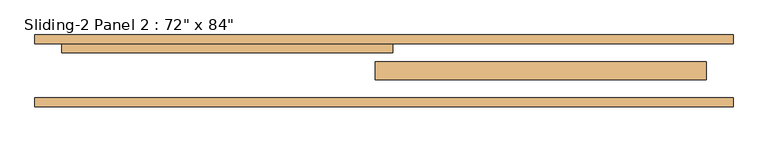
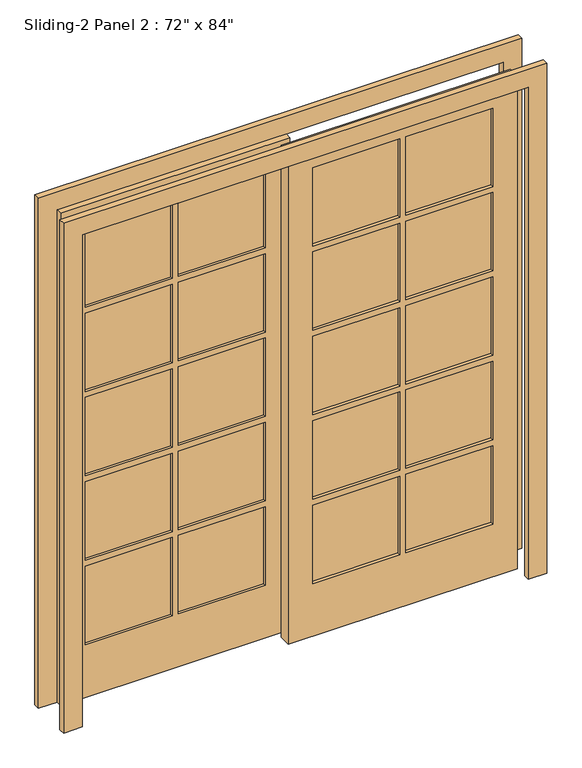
"""IFC4 building model written with IfcOpenShell, lengths in millimetres: door geometry."""

from ifc_helpers import new_model, si_unit, frame, origin, place, context, project, spatial, polyline, outline, extrude, source, transform, mapped, element, save


def door_789d9d7f(model_context):
    return source(origin(), model_context, "Body", "SweptSolid", [
        extrude(outline(polyline([(457.2, 139.4293121), (812.8, 139.4293121), (812.8, 114.8534681), (457.2, 114.8534681), (457.2, 139.4293121)])), frame((0.0, 0.0, 1691.64), z_axis=(0.0, 0.0, 1.0), x_axis=(1.0, 0.0, 0.0)), (0.0, 0.0, 1.0), 340.36),
        extrude(outline(polyline([(76.2, 139.4293121), (431.8, 139.4293121), (431.8, 114.8534681), (76.2, 114.8534681), (76.2, 139.4293121)])), frame((0.0, 0.0, 1691.64), z_axis=(0.0, 0.0, 1.0), x_axis=(1.0, 0.0, 0.0)), (0.0, 0.0, 1.0), 340.36),
        extrude(outline(polyline([(457.2, 139.4293121), (812.8, 139.4293121), (812.8, 114.8534681), (457.2, 114.8534681), (457.2, 139.4293121)])), frame((0.0, 0.0, 1325.88), z_axis=(0.0, 0.0, 1.0), x_axis=(1.0, 0.0, 0.0)), (0.0, 0.0, 1.0), 340.36),
        extrude(outline(polyline([(76.2, 139.4293121), (431.8, 139.4293121), (431.8, 114.8534681), (76.2, 114.8534681), (76.2, 139.4293121)])), frame((0.0, 0.0, 1325.88), z_axis=(0.0, 0.0, 1.0), x_axis=(1.0, 0.0, 0.0)), (0.0, 0.0, 1.0), 340.36),
        extrude(outline(polyline([(457.2, 139.4293121), (812.8, 139.4293121), (812.8, 114.8534681), (457.2, 114.8534681), (457.2, 139.4293121)])), frame((0.0, 0.0, 960.12), z_axis=(0.0, 0.0, 1.0), x_axis=(1.0, 0.0, 0.0)), (0.0, 0.0, 1.0), 340.36),
        extrude(outline(polyline([(76.2, 139.4293121), (431.8, 139.4293121), (431.8, 114.8534681), (76.2, 114.8534681), (76.2, 139.4293121)])), frame((0.0, 0.0, 960.12), z_axis=(0.0, 0.0, 1.0), x_axis=(1.0, 0.0, 0.0)), (0.0, 0.0, 1.0), 340.36),
        extrude(outline(polyline([(457.2, 139.4293121), (812.8, 139.4293121), (812.8, 114.8534681), (457.2, 114.8534681), (457.2, 139.4293121)])), frame((0.0, 0.0, 594.36), z_axis=(0.0, 0.0, 1.0), x_axis=(1.0, 0.0, 0.0)), (0.0, 0.0, 1.0), 340.36),
        extrude(outline(polyline([(76.2, 139.4293121), (431.8, 139.4293121), (431.8, 114.8534681), (76.2, 114.8534681), (76.2, 139.4293121)])), frame((0.0, 0.0, 594.36), z_axis=(0.0, 0.0, 1.0), x_axis=(1.0, 0.0, 0.0)), (0.0, 0.0, 1.0), 340.36),
        extrude(outline(polyline([(457.2, 139.4293121), (812.8, 139.4293121), (812.8, 114.8534681), (457.2, 114.8534681), (457.2, 139.4293121)])), frame((0.0, 0.0, 228.6), z_axis=(0.0, 0.0, 1.0), x_axis=(1.0, 0.0, 0.0)), (0.0, 0.0, 1.0), 340.36),
        extrude(outline(polyline([(76.2, 139.4293121), (431.8, 139.4293121), (431.8, 114.8534681), (76.2, 114.8534681), (76.2, 139.4293121)])), frame((0.0, 0.0, 228.6), z_axis=(0.0, 0.0, 1.0), x_axis=(1.0, 0.0, 0.0)), (0.0, 0.0, 1.0), 340.36),
        extrude(outline(polyline([(-457.2, 188.2711448), (-812.8, 188.2711448), (-812.8, 190.5), (-457.2, 190.5), (-457.2, 188.2711448)])), frame((0.0, 0.0, 1691.64), z_axis=(0.0, 0.0, 1.0), x_axis=(1.0, 0.0, 0.0)), (0.0, 0.0, 1.0), 340.36),
        extrude(outline(polyline([(-76.2, 188.2711448), (-431.8, 188.2711448), (-431.8, 190.5), (-76.2, 190.5), (-76.2, 188.2711448)])), frame((0.0, 0.0, 1691.64), z_axis=(0.0, 0.0, 1.0), x_axis=(1.0, 0.0, 0.0)), (0.0, 0.0, 1.0), 340.36),
        extrude(outline(polyline([(-76.2, 188.2711448), (-431.8, 188.2711448), (-431.8, 190.5), (-76.2, 190.5), (-76.2, 188.2711448)])), frame((0.0, 0.0, 1325.88), z_axis=(0.0, 0.0, 1.0), x_axis=(1.0, 0.0, 0.0)), (0.0, 0.0, 1.0), 340.36),
        extrude(outline(polyline([(-457.2, 188.2711448), (-812.8, 188.2711448), (-812.8, 190.5), (-457.2, 190.5), (-457.2, 188.2711448)])), frame((0.0, 0.0, 1325.88), z_axis=(0.0, 0.0, 1.0), x_axis=(1.0, 0.0, 0.0)), (0.0, 0.0, 1.0), 340.36),
        extrude(outline(polyline([(-76.2, 188.2711448), (-431.8, 188.2711448), (-431.8, 190.5), (-76.2, 190.5), (-76.2, 188.2711448)])), frame((0.0, 0.0, 960.12), z_axis=(0.0, 0.0, 1.0), x_axis=(1.0, 0.0, 0.0)), (0.0, 0.0, 1.0), 340.36),
        extrude(outline(polyline([(-457.2, 188.2711448), (-812.8, 188.2711448), (-812.8, 190.5), (-457.2, 190.5), (-457.2, 188.2711448)])), frame((0.0, 0.0, 960.12), z_axis=(0.0, 0.0, 1.0), x_axis=(1.0, 0.0, 0.0)), (0.0, 0.0, 1.0), 340.36),
        extrude(outline(polyline([(-76.2, 188.2711448), (-431.8, 188.2711448), (-431.8, 190.5), (-76.2, 190.5), (-76.2, 188.2711448)])), frame((0.0, 0.0, 594.36), z_axis=(0.0, 0.0, 1.0), x_axis=(1.0, 0.0, 0.0)), (0.0, 0.0, 1.0), 340.36),
        extrude(outline(polyline([(-457.2, 188.2711448), (-812.8, 188.2711448), (-812.8, 190.5), (-457.2, 190.5), (-457.2, 188.2711448)])), frame((0.0, 0.0, 594.36), z_axis=(0.0, 0.0, 1.0), x_axis=(1.0, 0.0, 0.0)), (0.0, 0.0, 1.0), 340.36),
        extrude(outline(polyline([(-457.2, 188.2711448), (-812.8, 188.2711448), (-812.8, 190.5), (-457.2, 190.5), (-457.2, 188.2711448)])), frame((0.0, 0.0, 228.6), z_axis=(0.0, 0.0, 1.0), x_axis=(1.0, 0.0, 0.0)), (0.0, 0.0, 1.0), 340.36),
        extrude(outline(polyline([(-76.2, 188.2711448), (-431.8, 188.2711448), (-431.8, 190.5), (-76.2, 190.5), (-76.2, 188.2711448)])), frame((0.0, 0.0, 228.6), z_axis=(0.0, 0.0, 1.0), x_axis=(1.0, 0.0, 0.0)), (0.0, 0.0, 1.0), 340.36),
        extrude(outline(polyline([(2133.6, -914.4), (0.0, -914.4), (0.0, 25.4), (2133.6, 25.4), (2133.6, -914.4)]), holes=[polyline([(228.6, -457.2), (228.6, -812.8), (568.96, -812.8), (568.96, -457.2), (228.6, -457.2)]), polyline([(1691.64, -812.8), (2032.0, -812.8), (2032.0, -457.2), (1691.64, -457.2), (1691.64, -812.8)]), polyline([(2032.0, -431.8), (2032.0, -76.2), (1691.64, -76.2), (1691.64, -431.8), (2032.0, -431.8)]), polyline([(568.96, -76.2), (228.6, -76.2), (228.6, -431.8), (568.96, -431.8), (568.96, -76.2)]), polyline([(1666.24, -457.2), (1325.88, -457.2), (1325.88, -812.8), (1666.24, -812.8), (1666.24, -457.2)]), polyline([(1300.48, -457.2), (960.12, -457.2), (960.12, -812.8), (1300.48, -812.8), (1300.48, -457.2)]), polyline([(934.72, -457.2), (594.36, -457.2), (594.36, -812.8), (934.72, -812.8), (934.72, -457.2)]), polyline([(1666.24, -76.2), (1325.88, -76.2), (1325.88, -431.8), (1666.24, -431.8), (1666.24, -76.2)]), polyline([(960.12, -431.8), (1300.48, -431.8), (1300.48, -76.2), (960.12, -76.2), (960.12, -431.8)]), polyline([(594.36, -431.8), (934.72, -431.8), (934.72, -76.2), (594.36, -76.2), (594.36, -431.8)])]), frame((0.0, 177.8, 0.0), z_axis=(0.0, 1.0, 0.0), x_axis=(0.0, 0.0, 1.0)), (0.0, 0.0, 1.0), 25.4),
        extrude(outline(polyline([(2133.6, -25.4), (0.0, -25.4), (0.0, 914.4), (2133.6, 914.4), (2133.6, -25.4)]), holes=[polyline([(2032.0, 457.2), (2032.0, 812.8), (1691.64, 812.8), (1691.64, 457.2), (2032.0, 457.2)]), polyline([(568.96, 812.8), (228.6, 812.8), (228.6, 457.2), (568.96, 457.2), (568.96, 812.8)]), polyline([(228.6, 431.8), (228.6, 76.2), (568.96, 76.2), (568.96, 431.8), (228.6, 431.8)]), polyline([(1691.64, 76.2), (2032.0, 76.2), (2032.0, 431.8), (1691.64, 431.8), (1691.64, 76.2)]), polyline([(1666.24, 457.2), (1666.24, 812.8), (1325.88, 812.8), (1325.88, 457.2), (1666.24, 457.2)]), polyline([(1300.48, 457.2), (1300.48, 812.8), (960.12, 812.8), (960.12, 457.2), (1300.48, 457.2)]), polyline([(960.12, 431.8), (960.12, 76.2), (1300.48, 76.2), (1300.48, 431.8), (960.12, 431.8)]), polyline([(934.72, 431.8), (594.36, 431.8), (594.36, 76.2), (934.72, 76.2), (934.72, 431.8)]), polyline([(594.36, 457.2), (934.72, 457.2), (934.72, 812.8), (594.36, 812.8), (594.36, 457.2)]), polyline([(1325.88, 76.2), (1666.24, 76.2), (1666.24, 431.8), (1325.88, 431.8), (1325.88, 76.2)])]), frame((0.0, 101.6, 0.0), z_axis=(0.0, 1.0, 0.0), x_axis=(0.0, 0.0, 1.0)), (0.0, 0.0, 1.0), 50.8),
        extrude(outline(polyline([(0.0, -990.6), (0.0, -914.4), (2133.6, -914.4), (2133.6, 914.4), (0.0, 914.4), (0.0, 990.6), (2209.8, 990.6), (2209.8, -990.6), (0.0, -990.6)])), frame((0.0, 25.4, 0.0), z_axis=(0.0, 1.0, 0.0), x_axis=(0.0, 0.0, 1.0)), (0.0, 0.0, 1.0), 25.4),
        extrude(outline(polyline([(0.0, 990.6), (2209.8, 990.6), (2209.8, -990.6), (0.0, -990.6), (0.0, -914.4), (2133.6, -914.4), (2133.6, 914.4), (0.0, 914.4), (0.0, 990.6)])), frame((0.0, 203.2, 0.0), z_axis=(0.0, 1.0, 0.0), x_axis=(0.0, 0.0, 1.0)), (0.0, 0.0, 1.0), 25.4),
    ])


if __name__ == "__main__":
    model = new_model("IFC4")
    model_context = context("Model", 3, world=origin())
    ifc_project = project(units=[si_unit("LENGTHUNIT", "METRE", prefix="MILLI")], contexts=[model_context])
    site = spatial("IfcSite", under=ifc_project)
    building = spatial("IfcBuilding", under=site)
    placement = place(None, origin())
    door_shape = door_789d9d7f(model_context)
    element("IfcDoor", 1, ObjectType="Sliding-2 Panel 2 : 72\" x 84\"", at=placement, inside=building, context=model_context, shape_type="MappedRepresentation", body=[
        mapped(door_shape, transform((0.0, 0.0, 0.0), x_axis=(1.0, 0.0, 0.0), y_axis=(0.0, 1.0, 0.0), z_axis=(0.0, 0.0, 1.0))),
    ])
    save(model, "model.ifc")
